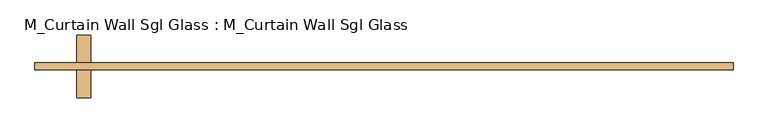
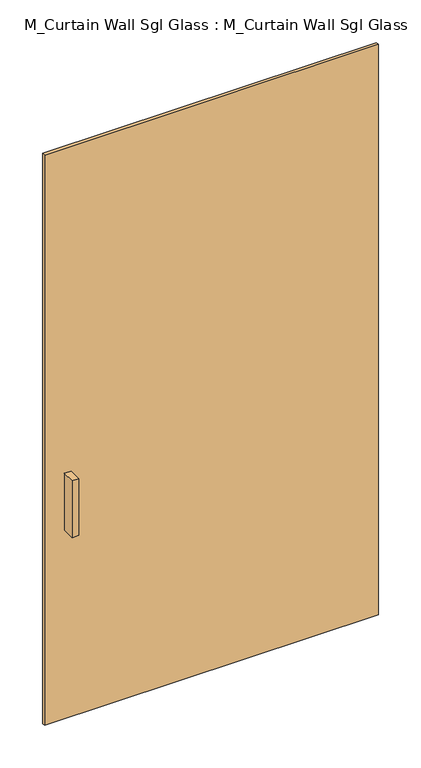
"""IFC4 building model written with IfcOpenShell, lengths in millimetres: door geometry, M_Curtain Wall Sgl Glass : M_Curtain Wall Sgl Glass."""

import ifcopenshell
import ifcopenshell.guid

model = None  # the IFC model being written
_history = None  # IfcOwnerHistory: only IFC2X3 demands one
_inside = {}  # id of a spatial element -> (the spatial element, [elements in it])
_under = {}  # id of a project, library or spatial element -> (it, [spatial elements below it])
_declared = {}  # id of a project -> (the project, [libraries it declares])
_typed = {}  # id of a type object -> (the type object, [elements of that type])
_made_of = {}  # id of a material, layer set ... -> (it, [elements and type objects made of it])


def new_model(schema):
    """Start an empty IFC model of exactly this schema.

    Asked for "IFC4X3", IfcOpenShell would pick the latest addendum, in which some entities
    have other attributes; the version numbers below select the first issue.
    IFC2X3 requires an IfcOwnerHistory on every rooted entity: one is made here for all.
    """
    global model, _history
    if schema == "IFC4X3":
        model = ifcopenshell.file(schema_version=(4, 3, 0, 0))
    else:
        model = ifcopenshell.file(schema=schema)
    _inside.clear()
    _under.clear()
    _declared.clear()
    _typed.clear()
    _made_of.clear()
    _history = None
    if model.schema == "IFC2X3":
        org = make("IfcOrganization", Name="unknown")
        user = make(
            "IfcPersonAndOrganization",
            ThePerson=make("IfcPerson", FamilyName="unknown"),
            TheOrganization=org,
        )
        app = make(
            "IfcApplication",
            ApplicationDeveloper=org,
            Version="unknown",
            ApplicationFullName="unknown",
            ApplicationIdentifier="unknown",
        )
        _history = make(
            "IfcOwnerHistory",
            OwningUser=user,
            OwningApplication=app,
            ChangeAction="ADDED",
            CreationDate=0,
        )
    return model


def make(cls, **values):
    """One entity of the class cls with the attributes given. An attribute that is None is left unset."""
    return model.create_entity(
        cls, **{name: value for name, value in values.items() if value is not None}
    )


def rooted(cls, **values):
    """An entity with a GlobalId (a new one), such as an element, a storey or a relation."""
    return make(cls, GlobalId=ifcopenshell.guid.new(), OwnerHistory=_history, **values)


def si_unit(unit_type, name, prefix=None):
    """IfcSIUnit, for example si_unit("LENGTHUNIT", "METRE", prefix="MILLI")."""
    return make("IfcSIUnit", UnitType=unit_type, Prefix=prefix, Name=name)


def assignment(units):
    """IfcUnitAssignment: the units of a project."""
    return None if units is None else make("IfcUnitAssignment", Units=units)


def point(xyz):
    """IfcCartesianPoint."""
    return None if xyz is None else make("IfcCartesianPoint", Coordinates=xyz)


def direction(xyz):
    """IfcDirection."""
    return None if xyz is None else make("IfcDirection", DirectionRatios=xyz)


def frame(location, z_axis=None, x_axis=None):
    """IfcAxis2Placement3D, a coordinate frame: its origin and axes. An axis left out is left unset."""
    return make(
        "IfcAxis2Placement3D",
        Location=point(location),
        Axis=direction(z_axis),
        RefDirection=direction(x_axis),
    )


def origin():
    """The frame at (0, 0, 0) with its axes left unset."""
    return frame((0.0, 0.0, 0.0))


def origin_with_axes():
    """The frame at (0, 0, 0) with the z axis (0, 0, 1) and the x axis (1, 0, 0) written out."""
    return frame((0.0, 0.0, 0.0), z_axis=(0.0, 0.0, 1.0), x_axis=(1.0, 0.0, 0.0))


def place(relative_to, where):
    """IfcLocalPlacement: puts the frame where relative to a parent placement (None: the world)."""
    return make(
        "IfcLocalPlacement", PlacementRelTo=relative_to, RelativePlacement=where
    )


def context(
    kind, dimensions, precision=None, world=None, true_north=None, identifier=None
):
    """IfcGeometricRepresentationContext, for example the 3D "Model" context."""
    return make(
        "IfcGeometricRepresentationContext",
        ContextIdentifier=identifier,
        ContextType=kind,
        CoordinateSpaceDimension=dimensions,
        Precision=precision,
        WorldCoordinateSystem=world,
        TrueNorth=true_north,
    )


def project(units=None, contexts=None):
    """IfcProject with its units and contexts."""
    return rooted(
        "IfcProject",
        Name="project",
        RepresentationContexts=contexts,
        UnitsInContext=assignment(units),
    )


def spatial(cls, under=None, at=None, **own):
    """A site, building, storey or space (cls), placed at a placement, below another one or the project."""
    s = rooted(cls, ObjectPlacement=at, **own)
    if under is not None:
        _under.setdefault(under.id(), (under, []))[1].append(s)
    return s


def polyline(points):
    """IfcPolyline through the points."""
    return make("IfcPolyline", Points=[point(p) for p in points])


def outline(outer, holes=None, kind="AREA"):
    """IfcArbitraryClosedProfileDef: a profile drawn as a closed curve; with holes, ...WithVoids."""
    if holes is None:
        return make("IfcArbitraryClosedProfileDef", ProfileType=kind, OuterCurve=outer)
    return make(
        "IfcArbitraryProfileDefWithVoids",
        ProfileType=kind,
        OuterCurve=outer,
        InnerCurves=holes,
    )


def extrude(swept, where, along, depth):
    """IfcExtrudedAreaSolid: the profile swept, set in the frame where, extruded along a direction by depth."""
    return make(
        "IfcExtrudedAreaSolid",
        SweptArea=swept,
        Position=where,
        ExtrudedDirection=direction(along),
        Depth=depth,
    )


def shape(context_of_items, identifier, shape_type, items):
    """IfcShapeRepresentation: the items that make up one representation, for example the "Body"."""
    return make(
        "IfcShapeRepresentation",
        ContextOfItems=context_of_items,
        RepresentationIdentifier=identifier,
        RepresentationType=shape_type,
        Items=items,
    )


def source(mapping_origin, context_of_items, identifier, shape_type, items):
    """IfcRepresentationMap: a shape defined once, which mapped items show again and again."""
    return make(
        "IfcRepresentationMap",
        MappingOrigin=mapping_origin,
        MappedRepresentation=shape(context_of_items, identifier, shape_type, items),
    )


def transform(
    local_origin,
    x_axis=None,
    y_axis=None,
    z_axis=None,
    scale=None,
    scale2=None,
    scale3=None,
    uniform=True,
):
    """IfcCartesianTransformationOperator3D, or its non-uniform kind. x_axis, y_axis, z_axis: its Axis1, 2, 3."""
    if uniform:
        return make(
            "IfcCartesianTransformationOperator3D",
            Axis1=direction(x_axis),
            Axis2=direction(y_axis),
            LocalOrigin=point(local_origin),
            Scale=scale,
            Axis3=direction(z_axis),
        )
    return make(
        "IfcCartesianTransformationOperator3DnonUniform",
        Axis1=direction(x_axis),
        Axis2=direction(y_axis),
        LocalOrigin=point(local_origin),
        Scale=scale,
        Axis3=direction(z_axis),
        Scale2=scale2,
        Scale3=scale3,
    )


def mapped(mapping_source, mapping_target):
    """IfcMappedItem: shows the shape of a source again, moved by a transform."""
    return make(
        "IfcMappedItem", MappingSource=mapping_source, MappingTarget=mapping_target
    )


def made_of(thing, what):
    """Note that an element or type object is made of a material, layer set ...; save() writes the relation."""
    if what is not None:
        _made_of.setdefault(what.id(), (what, []))[1].append(thing)
    return thing


def element(
    cls,
    number,
    at=None,
    inside=None,
    cuts=None,
    type_object=None,
    material=None,
    context=None,
    identifier="Body",
    shape_type=None,
    held_by="IfcProductDefinitionShape",
    body=None,
    shapes=None,
    **own,
):
    """One element of the class cls, such as IfcWall. Its Tag is "e" and its number.

    at: its placement. inside: the storey or other place that contains it. cuts: it is an
    opening in that element (IfcRelVoidsElement). A single representation is given by context,
    identifier, shape_type and body (its items); several are given by shapes. held_by: the class
    of the entity that holds the representations. save() writes the other relations.
    """
    e = rooted(cls, Tag="e%d" % number, ObjectPlacement=at, **own)
    if body is not None:
        shapes = [shape(context, identifier, shape_type, body)]
    if shapes is not None:
        e.Representation = make(held_by, Representations=shapes)
    if inside is not None:
        _inside.setdefault(inside.id(), (inside, []))[1].append(e)
    if cuts is not None:
        rooted(
            "IfcRelVoidsElement", RelatingBuildingElement=cuts, RelatedOpeningElement=e
        )
    if type_object is not None:
        _typed.setdefault(type_object.id(), (type_object, []))[1].append(e)
    return made_of(e, material)


def aggregate(whole, parts):
    """IfcRelAggregates: a whole, such as a stair, and the parts it consists of."""
    return rooted("IfcRelAggregates", RelatingObject=whole, RelatedObjects=parts)


def save(model, path):
    """Write the relations noted so far, then the file.

    IfcRelAggregates (storeys below a building ...), IfcRelContainedInSpatialStructure (elements
    in a storey), IfcRelDefinesByType, IfcRelAssociatesMaterial and IfcRelDeclares: one each for
    every whole, place, type object, material and project.
    """
    for whole, parts in _under.values():
        aggregate(whole, parts)
    for where, things in _inside.values():
        rooted(
            "IfcRelContainedInSpatialStructure",
            RelatedElements=things,
            RelatingStructure=where,
        )
    for kind, things in _typed.values():
        rooted("IfcRelDefinesByType", RelatedObjects=things, RelatingType=kind)
    for what, things in _made_of.values():
        rooted("IfcRelAssociatesMaterial", RelatedObjects=things, RelatingMaterial=what)
    for by, libraries in _declared.values():
        rooted("IfcRelDeclares", RelatingContext=by, RelatedDefinitions=libraries)
    model.write(path)


def m_curtain_wall_sgl_glass_m_curtain_wall_sgl_glass_8ad9dc3e(model_context):
    return source(origin(), model_context, "Body", "SweptSolid", [
        extrude(outline(polyline([(-535.9, -63.5), (-561.3, -63.5), (-561.3, -12.7), (-535.9, -12.7), (-535.9, -63.5)])), frame((0.0, 0.0, 762.0), z_axis=(0.0, 0.0, 1.0), x_axis=(1.0, 0.0, 0.0)), (0.0, 0.0, 1.0), 228.6),
        extrude(outline(polyline([(-561.3, 50.8), (-535.9, 50.8), (-535.9, 0.0), (-561.3, 0.0), (-561.3, 50.8)])), frame((0.0, 0.0, 762.0), z_axis=(0.0, 0.0, 1.0), x_axis=(1.0, 0.0, 0.0)), (0.0, 0.0, 1.0), 228.6),
        extrude(outline(polyline([(637.5, 0.0), (637.5, -12.7), (-637.5, -12.7), (-637.5, 0.0), (637.5, 0.0)])), origin_with_axes(), (0.0, 0.0, 1.0), 2300.0),
    ])


if __name__ == "__main__":
    model = new_model("IFC4")
    model_context = context("Model", 3, world=origin())
    ifc_project = project(units=[si_unit("LENGTHUNIT", "METRE", prefix="MILLI")], contexts=[model_context])
    site = spatial("IfcSite", under=ifc_project)
    building = spatial("IfcBuilding", under=site)
    placement = place(None, origin())
    m_curtain_wall_sgl_glass_m_curtain_wall_sgl_glass_shape = m_curtain_wall_sgl_glass_m_curtain_wall_sgl_glass_8ad9dc3e(model_context)
    element("IfcDoor", 1, ObjectType="M_Curtain Wall Sgl Glass : M_Curtain Wall Sgl Glass", at=placement, inside=building, context=model_context, shape_type="MappedRepresentation", body=[
        mapped(m_curtain_wall_sgl_glass_m_curtain_wall_sgl_glass_shape, transform((0.0, 0.0, 0.0), x_axis=(1.0, 0.0, 0.0), y_axis=(0.0, 1.0, 0.0), z_axis=(0.0, 0.0, 1.0))),
    ])
    save(model, "model.ifc")
